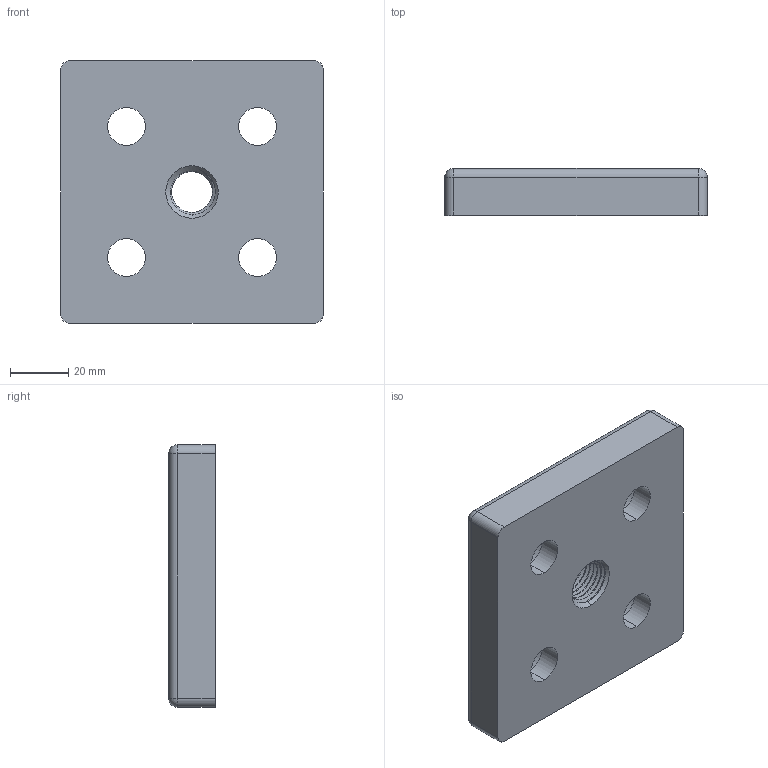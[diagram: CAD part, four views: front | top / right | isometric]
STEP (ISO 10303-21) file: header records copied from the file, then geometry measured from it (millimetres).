
FILE_DESCRIPTION (( 'STEP AP203' ), '1' );
FILE_NAME ('3215.010.312.STEP', '2025-02-19T06:13:05', ( '' ), ( '' ), 'SwSTEP 2.0', 'SolidWorks 2024', '' );
FILE_SCHEMA (( 'CONFIG_CONTROL_DESIGN' ));
Length unit declared in the file: millimetre
Products named in the file (1): 3215.010.312
Bounding box: 90 x 16 x 90 mm (x, y, z)
Volume: 110991.6 mm3; surface area: 24327.1 mm2
Topology: 1 solids, 1 shells, 68 faces, 170 edges, 104 vertices
Faces by surface type: cylinder 39, cone 12, plane 10, sphere 4, bspline 3
Entity records: 4738 total; most frequent: CARTESIAN_POINT 3116, ORIENTED_EDGE 332, DIRECTION 318, EDGE_CURVE 166, AXIS2_PLACEMENT_3D 128, VERTEX_POINT 104, EDGE_LOOP 82, ADVANCED_FACE 68
